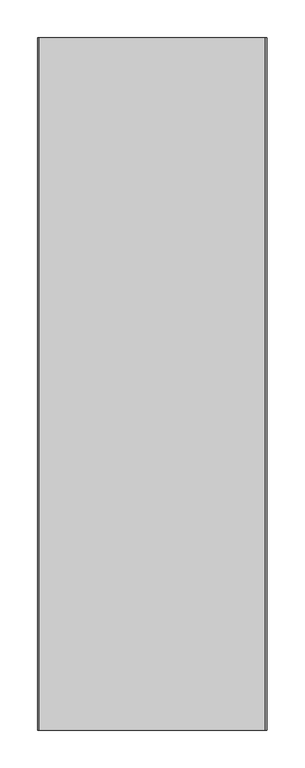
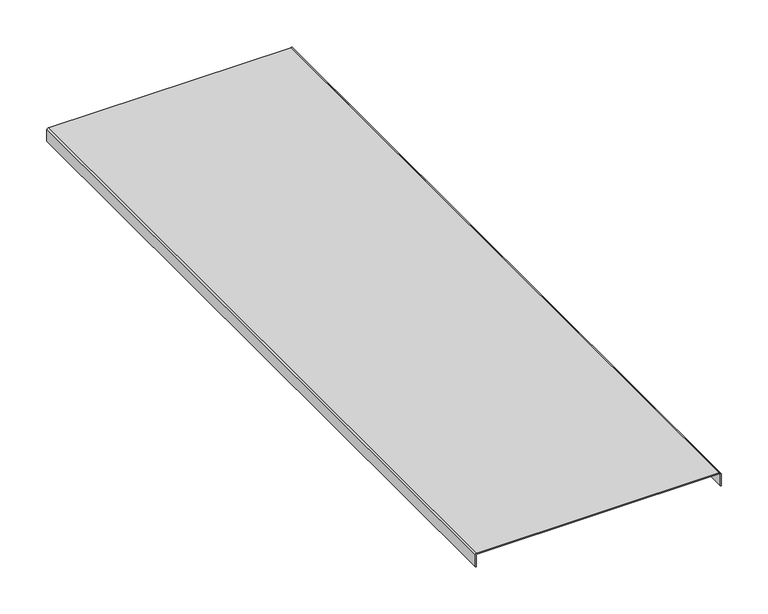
"""IFC4 building model written with IfcOpenShell, lengths in millimetres: proxy geometry, Cable_Tray_Cover_CT_Basorcanal : Basorcanal CT 100X300 (cover)."""

from ifc_helpers import new_model, si_unit, point, frame, frame_2d, origin, place, context, project, spatial, polyline, circle_curve, trimmed, segment, composite_curve, outline, extrude, source, transform, mapped, element, save


def generic_models_6fad3b39(model_context):
    return source(origin(), model_context, "Body", "SweptSolid", [
        extrude(outline(composite_curve([segment(trimmed(circle_curve(frame_2d((-1.0, -149.0)), 1.0), [point((-1.0, -150.0))], [point((0.0, -149.0))], True, "CARTESIAN"), True, "CONTINUOUS"), segment(polyline([(0.0, -149.0), (0.0, 149.0)]), True, "CONTINUOUS"), segment(trimmed(circle_curve(frame_2d((-1.0, 149.0)), 1.0), [point((0.0, 149.0))], [point((-1.0, 150.0))], True, "CARTESIAN"), True, "CONTINUOUS"), segment(polyline([(-1.0, 150.0), (-16.0, 150.0), (-16.0, 151.0), (-1.0, 151.0)]), True, "CONTINUOUS"), segment(trimmed(circle_curve(frame_2d((-1.0, 149.0)), 2.0), [point((-1.0, 151.0))], [point((1.0, 149.0))], False, "CARTESIAN"), True, "CONTINUOUS"), segment(polyline([(1.0, 149.0), (1.0, -149.0)]), True, "CONTINUOUS"), segment(trimmed(circle_curve(frame_2d((-1.0, -149.0)), 2.0), [point((1.0, -149.0))], [point((-1.0, -151.0))], False, "CARTESIAN"), True, "CONTINUOUS"), segment(polyline([(-1.0, -151.0), (-16.0, -151.0), (-16.0, -150.0), (-1.0, -150.0)]), True, "CONTINUOUS")], self_intersect=False)), frame((0.0, 0.0, 0.0), z_axis=(0.0, 1.0, 0.0), x_axis=(0.0, 0.0, 1.0)), (0.0, 0.0, 1.0), 911.4),
    ])


if __name__ == "__main__":
    model = new_model("IFC4")
    model_context = context("Model", 3, world=origin())
    ifc_project = project(units=[si_unit("LENGTHUNIT", "METRE", prefix="MILLI")], contexts=[model_context])
    site = spatial("IfcSite", under=ifc_project)
    building = spatial("IfcBuilding", under=site)
    placement = place(None, origin())
    generic_models_shape = generic_models_6fad3b39(model_context)
    element("IfcBuildingElementProxy", 1, Name="Cable_Tray_Cover_CT_Basorcanal : Basorcanal CT 100X300 (cover)", ObjectType="Cable_Tray_Cover_CT_Basorcanal : Basorcanal CT 100X300 (cover)", at=placement, inside=building, context=model_context, shape_type="MappedRepresentation", body=[
        mapped(generic_models_shape, transform((0.0, 0.0, 0.0), x_axis=(1.0, 0.0, 0.0), y_axis=(0.0, 1.0, 0.0), z_axis=(0.0, 0.0, 1.0))),
    ])
    save(model, "model.ifc")
